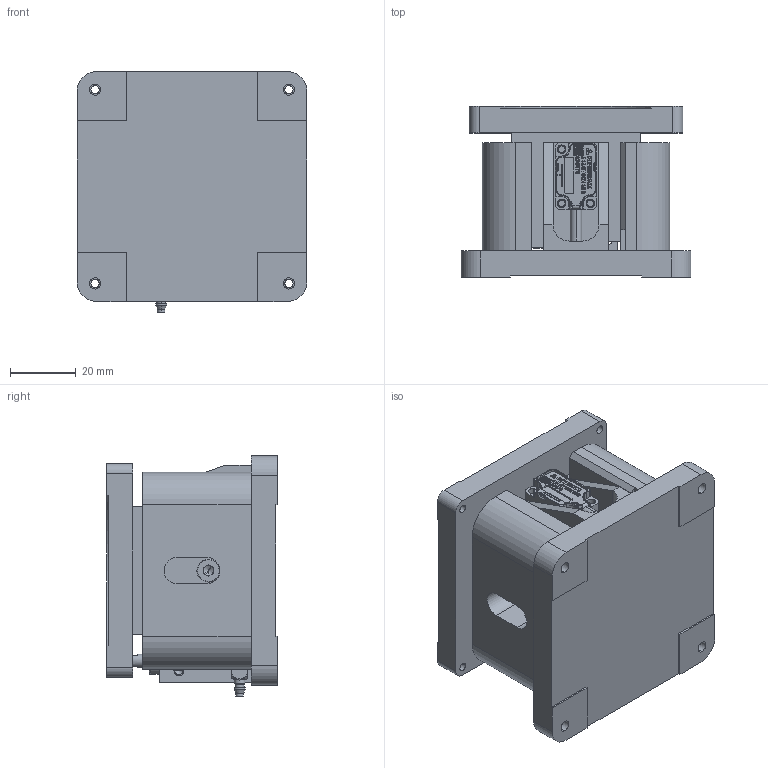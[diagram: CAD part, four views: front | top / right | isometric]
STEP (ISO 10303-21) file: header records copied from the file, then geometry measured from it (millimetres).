
FILE_DESCRIPTION (( 'STEP AP203' ), '1' );
FILE_NAME ('FMZ65-8Íâ·¢.STEP', '2021-08-03T08:16:57', ( '' ), ( '' ), 'SwSTEP 2.0', 'SolidWorks 2016', '' );
FILE_SCHEMA (( 'CONFIG_CONTROL_DESIGN' ));
Length unit declared in the file: millimetre
Products named in the file (11): M-3ALU-4; CUJB6-15D(0)_ROD; FMZ65-8-03V1.0絳寢嘐隅輸; socket head cap screw_iso_ISO 4762 M4 x 6 - 6N; FMZ65-8-01V1.0菁釱; FMZ65-8-02V1.0賑釱; 濘攝庄黍芛_ATOM_DX_40_m_top_exit; CUJB6-15D(0_0); CUJB6-15D(0)_BODY; FMZ65-8俋楷; FMZ65-8-04V1.0黍芛嘐隅輸
Assembly tree (12 placements, depth 3):
  FMZ65-8俋楷
    FMZ65-8-01V1.0菁釱
    FMZ65-8-02V1.0賑釱
    FMZ65-8-03V1.0絳寢嘐隅輸  x2
    FMZ65-8-04V1.0黍芛嘐隅輸
    CUJB6-15D(0_0)
      CUJB6-15D(0)_BODY
      CUJB6-15D(0)_ROD
    M-3ALU-4
    濘攝庄黍芛_ATOM_DX_40_m_top_exit
    socket head cap screw_iso_ISO 4762 M4 x 6 - 6N  x2
Bounding box: 70 x 52 x 73.3 mm (x, y, z)
Volume: 184771.9 mm3; surface area: 51459.4 mm2
Topology: 14 solids, 14 shells, 1309 faces, 3497 edges, 2276 vertices
Faces by surface type: plane 865, cylinder 261, bspline 112, cone 55, sphere 8, torus 8
Entity records: 44572 total; most frequent: CARTESIAN_POINT 12392, ORIENTED_EDGE 6748, DIRECTION 5766, EDGE_CURVE 3374, VECTOR 2562, LINE 2562, VERTEX_POINT 2216, AXIS2_PLACEMENT_3D 1602
